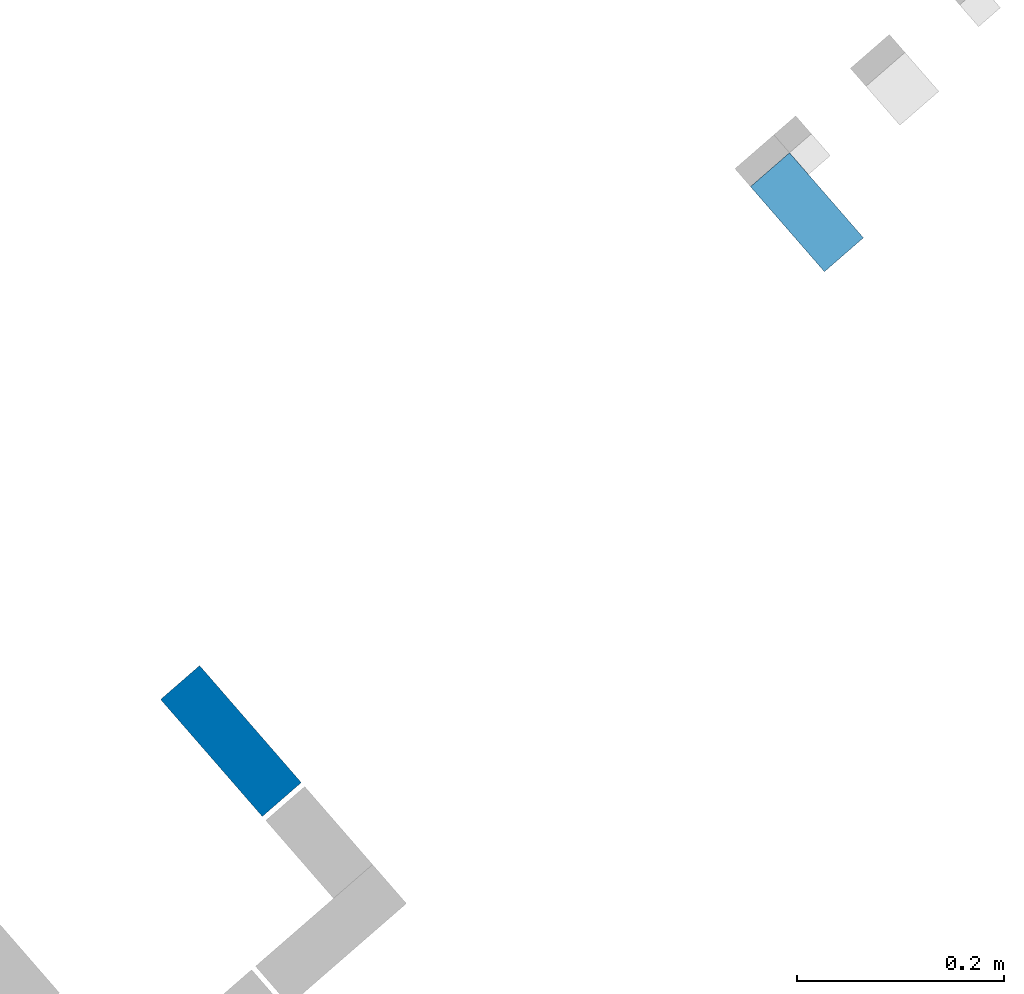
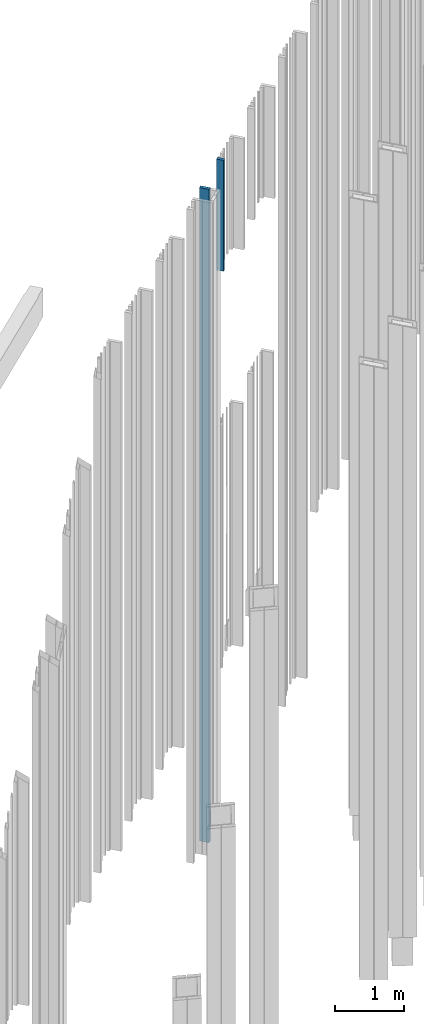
# One storey, part 256 of 390: 2 walls.
"""IFC2X3 building model written with IfcOpenShell, lengths in millimetres."""

from ifc_helpers import new_model, entity, si_unit, converted_unit, derived_unit, money_unit, direction, frame, origin_with_axes, place, context, subcontext, project, spatial, faceted_brep, material, type_object, element, save


model = new_model("IFC2X3")

# Units and contexts
model_context = context("Model", 3, precision=1e-05, world=origin_with_axes(), true_north=direction((0.0, 1.0)))
body_context = subcontext(model_context, "Body", "Model", "MODEL_VIEW")
ifc_project = project(units=[si_unit("LENGTHUNIT", "METRE", prefix="MILLI"), si_unit("AREAUNIT", "SQUARE_METRE"), si_unit("VOLUMEUNIT", "CUBIC_METRE"), converted_unit("PLANEANGLEUNIT", "DEGREE", entity("IfcPlaneAngleMeasure", 0.0174532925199), si_unit("PLANEANGLEUNIT", "RADIAN"), dimensions=[0, 0, 0, 0, 0, 0, 0]), si_unit("SOLIDANGLEUNIT", "STERADIAN"), money_unit("EUR"), converted_unit("TIMEUNIT", "Year", entity("IfcTimeMeasure", 31556926.0), si_unit("TIMEUNIT", "SECOND"), dimensions=[0, 0, 1, 0, 0, 0, 0]), si_unit("MASSUNIT", "GRAM", prefix="KILO"), si_unit("THERMODYNAMICTEMPERATUREUNIT", "DEGREE_CELSIUS"), si_unit("LUMINOUSINTENSITYUNIT", "LUMEN"), si_unit("ENERGYUNIT", "JOULE", prefix="MEGA"), derived_unit("THERMALCONDUCTANCEUNIT", [(si_unit("POWERUNIT", "WATT"), 1), (si_unit("LENGTHUNIT", "METRE"), -1), (si_unit("THERMODYNAMICTEMPERATUREUNIT", "KELVIN"), -1)]), derived_unit("SPECIFICHEATCAPACITYUNIT", [(si_unit("ENERGYUNIT", "JOULE"), 1), (si_unit("MASSUNIT", "GRAM", prefix="KILO"), -1), (si_unit("THERMODYNAMICTEMPERATUREUNIT", "KELVIN"), -1)]), derived_unit("MASSDENSITYUNIT", [(si_unit("MASSUNIT", "GRAM", prefix="KILO"), 1), (si_unit("VOLUMEUNIT", "CUBIC_METRE"), -1)])], contexts=[model_context])

# Site, building, storey
site_placement = place(None, origin_with_axes())
site = spatial("IfcSite", under=ifc_project, at=site_placement, Name="Site", CompositionType="ELEMENT")
building_placement = place(site_placement, origin_with_axes())
building = spatial("IfcBuilding", under=site, at=building_placement, Name="Building", CompositionType="ELEMENT")
storey_placement = place(building_placement, origin_with_axes())
storey = spatial("IfcBuildingStorey", under=building, at=storey_placement, Name="1 korrus", CompositionType="ELEMENT", Elevation=0.0)

# Walls
ifc_material = material(Name="Site specified")
wall_type_1 = type_object("IfcWallType", Name="Puitfassaadi ribistik", PredefinedType="NOTDEFINED")
wall_1_placement = place(storey_placement, frame((163862.909306, 87035.3826539, 7915.0), z_axis=(0.0, 0.0, 1.0), x_axis=(-0.754709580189, -0.65605902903, 0.0)))
element("IfcWall", 1, at=wall_1_placement, inside=storey, type_object=wall_type_1, material=ifc_material, Name="Site specified", context=body_context, shape_type="Brep", body=[
    faceted_brep([(-25.0, -54.5, 1950.0), (-25.0, -54.5, 0.0), (25.0, -54.5, 0.0), (25.0, -54.5, 1950.0), (-25.0, 54.5, 1950.0), (-25.0, 54.5, 0.0), (25.0, 54.5, 0.0), (25.0, 54.5, 1950.0)], [[[0, 1, 2, 3]], [[4, 5, 1, 0]], [[2, 1, 5, 6]], [[3, 2, 6, 7]], [[4, 0, 3, 7]], [[7, 6, 5, 4]]]),
])
wall_type_2 = type_object("IfcWallType", Name="Puitfassaadi ribisik", PredefinedType="NOTDEFINED")
wall_2_placement = place(storey_placement, frame((163305.784044, 86523.9183749, -1615.0), z_axis=(0.0, 0.0, 1.0), x_axis=(-0.754709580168, -0.656059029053, 0.0)))
element("IfcWall", 2, at=wall_2_placement, inside=storey, type_object=wall_type_2, material=ifc_material, Name="Site specified", context=body_context, shape_type="Brep", body=[
    faceted_brep([(-25.0, -75.0, 11479.9999949), (-25.0, -75.0, 0.0), (25.0, -75.0, 0.0), (25.0, -75.0, 11479.9999949), (-25.0, 75.0, 11479.9999949), (-25.0, 75.0, 0.0), (25.0, 75.0, 0.0), (25.0, 75.0, 11479.9999949)], [[[0, 1, 2, 3]], [[4, 5, 1, 0]], [[2, 1, 5, 6]], [[3, 2, 6, 7]], [[4, 0, 3, 7]], [[7, 6, 5, 4]]]),
])

save(model, "model.ifc")
